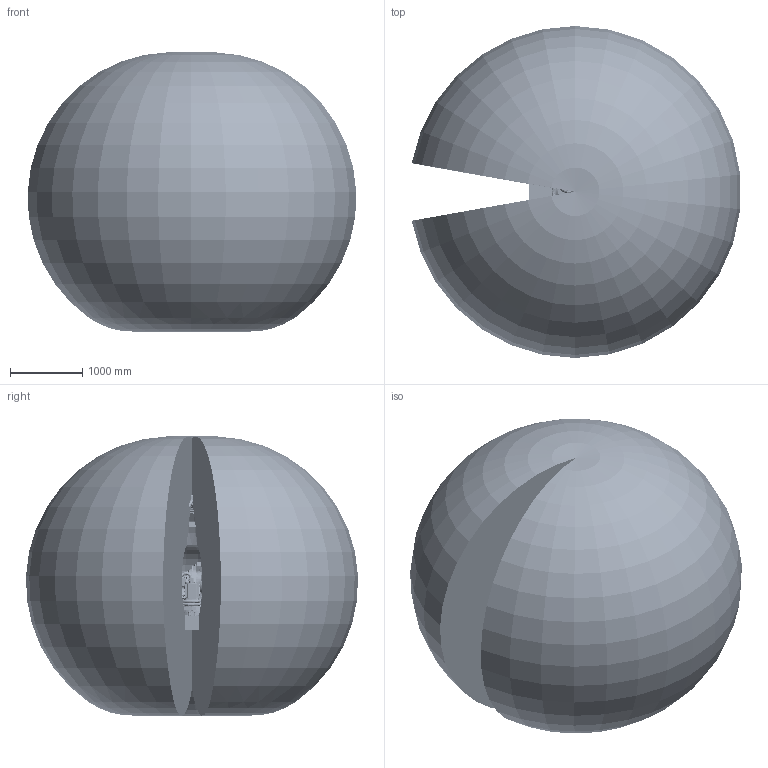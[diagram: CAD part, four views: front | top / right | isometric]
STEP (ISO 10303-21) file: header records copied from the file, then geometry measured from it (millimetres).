
FILE_DESCRIPTION (( 'STEP AP214' ), '1' );
FILE_NAME ('IRB5710-LID-MH_90kg-230_OC_02_ASM.step', '2025-07-07T14:14:36', ( '' ), ( '' ), 'SwSTEP 2.0', 'SolidWorks 2024', '' );
FILE_SCHEMA (( 'AUTOMOTIVE_DESIGN' ));
Length unit declared in the file: millimetre
Products named in the file (18): IRB5710-LID_90kg-230_OmniCore_rev00_LINK03m_CABLE; IRB5710-LID_90kg-230_OmniCore_rev00_LINK04_CABLE; IRB5710-LID_90kg-230_OmniCore_rev00_LINK01_CAD; IRB5710-LID_90kg-230_OmniCore_rev00_LINK02m_CABLE; IRB5710-LID_90kg-230_OmniCore_rev00_LINK05_CAD; IRB5710-LID-MH_90kg-230_OC_00_LINK02_CABLE; IRB5710-LID_90kg-230_OmniCore_rev00_LINK05_CABLE; IRB5710-LID_90kg-230_OmniCore_rev00_LINK04_CAD; IRB5710-LID_90kg-230_OmniCore_rev00_Working-space; IRB5710-LID-MH_90kg-230_OC_01_LINK03b_CABLE; IRB5710-LID-MH_90kg-230_OC_00_LINK01_CABLE; IRB5710-LID_90kg-230_OmniCore_rev00_LINK01m_CABLE; IRB5710-LID-MH_90kg-230_OC_00_LINK03a_CABLE; IRB5710-LID-MH_90kg-230_OC_02_ASM; IRB5710-LID_90kg-230_OC_00_BASE_CAD; IRB5710-LID_90kg-230_OmniCore_rev00_LINK06_CABLE; IRB5710-LID_90kg-230_OmniCore_rev00_LINK02_CAD; IRB5710-LID_90kg-230_OmniCore_rev01_LINK03_CAD
Assembly tree (17 placements, depth 2):
  IRB5710-LID-MH_90kg-230_OC_02_ASM
    IRB5710-LID_90kg-230_OC_00_BASE_CAD
    IRB5710-LID_90kg-230_OmniCore_rev00_LINK01_CAD
    IRB5710-LID_90kg-230_OmniCore_rev00_LINK02_CAD
    IRB5710-LID_90kg-230_OmniCore_rev01_LINK03_CAD
    IRB5710-LID_90kg-230_OmniCore_rev00_LINK04_CAD
    IRB5710-LID_90kg-230_OmniCore_rev00_LINK05_CAD
    IRB5710-LID_90kg-230_OmniCore_rev00_LINK01m_CABLE
    IRB5710-LID_90kg-230_OmniCore_rev00_LINK02m_CABLE
    IRB5710-LID_90kg-230_OmniCore_rev00_LINK03m_CABLE
    IRB5710-LID-MH_90kg-230_OC_00_LINK01_CABLE
    IRB5710-LID-MH_90kg-230_OC_00_LINK02_CABLE
    IRB5710-LID-MH_90kg-230_OC_00_LINK03a_CABLE
    IRB5710-LID-MH_90kg-230_OC_01_LINK03b_CABLE
    IRB5710-LID_90kg-230_OmniCore_rev00_LINK04_CABLE
    IRB5710-LID_90kg-230_OmniCore_rev00_LINK05_CABLE
    IRB5710-LID_90kg-230_OmniCore_rev00_LINK06_CABLE
    IRB5710-LID_90kg-230_OmniCore_rev00_Working-space
Bounding box: 4548.84 x 4596.35 x 3866.47 mm (x, y, z)
Volume: 42285146692 mm3; surface area: 90145580.8 mm2
Topology: 27 solids, 75 shells, 7674 faces, 19397 edges, 12439 vertices
Faces by surface type: plane 3594, cylinder 2121, cone 888, bspline 797, torus 234, sphere 40
Entity records: 375206 total; most frequent: CARTESIAN_POINT 172319, ORIENTED_EDGE 38484, DIRECTION 34861, EDGE_CURVE 19242, AXIS2_PLACEMENT_3D 12726, VERTEX_POINT 12439, LINE 9409, VECTOR 9409
